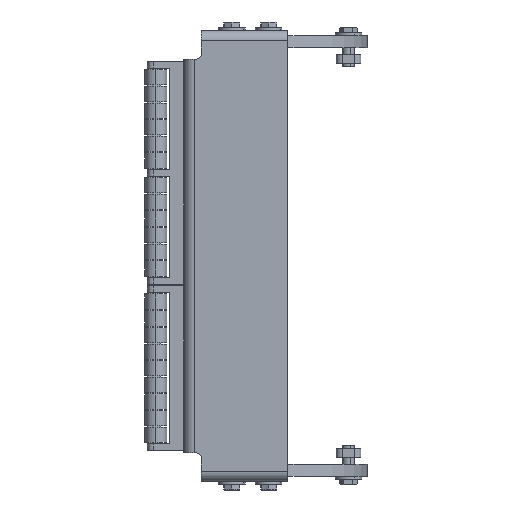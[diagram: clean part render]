
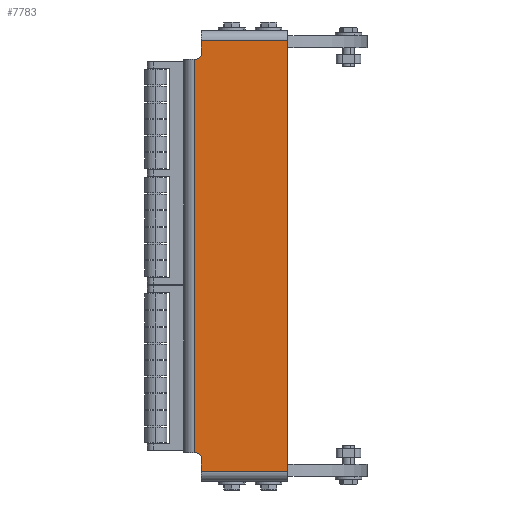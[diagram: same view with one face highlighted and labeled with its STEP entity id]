
A CAD part, left-side view. The second image highlights one B-rep face of the part: STEP entity #7783.
In plain terms, the highlighted planar face has unit normal (-1, 0, 0) as drawn and (1, 0, 0) by its records, which use the part's own axes.
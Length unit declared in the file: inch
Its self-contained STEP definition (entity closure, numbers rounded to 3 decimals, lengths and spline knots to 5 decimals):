
#6773=DIRECTION('',(0.,-1.,0.));
#6774=VECTOR('',#6773,1.75);
#6775=CARTESIAN_POINT('',(0.,0.8125,-4.375));
#6776=LINE('',#6775,#6774);
#6781=DIRECTION('',(0.,-1.,0.));
#6782=VECTOR('',#6781,0.023);
#6783=CARTESIAN_POINT('',(0.,0.9605,4.));
#6784=LINE('',#6783,#6782);
#6785=DIRECTION('',(0.,1.,0.));
#6786=VECTOR('',#6785,0.023);
#6787=CARTESIAN_POINT('',(0.,0.9375,-4.));
#6788=LINE('',#6787,#6786);
#6789=CARTESIAN_POINT('',(0.,0.9375,-4.125));
#6790=DIRECTION('',(-1.,0.,0.));
#6791=DIRECTION('',(0.,-1.,0.));
#6792=AXIS2_PLACEMENT_3D('',#6789,#6790,#6791);
#6794=DIRECTION('',(0.,0.,1.));
#6795=VECTOR('',#6794,0.25);
#6796=CARTESIAN_POINT('',(0.,0.8125,-4.375));
#6797=LINE('',#6796,#6795);
#6798=DIRECTION('',(0.,0.,1.));
#6799=VECTOR('',#6798,0.25);
#6800=CARTESIAN_POINT('',(0.,0.8125,4.125));
#6801=LINE('',#6800,#6799);
#6802=CARTESIAN_POINT('',(0.,0.9375,4.125));
#6803=DIRECTION('',(-1.,0.,0.));
#6804=DIRECTION('',(0.,0.,-1.));
#6805=AXIS2_PLACEMENT_3D('',#6802,#6803,#6804);
#6983=DIRECTION('',(0.,1.,0.));
#6984=VECTOR('',#6983,1.75);
#6985=CARTESIAN_POINT('',(0.,-0.9375,4.375));
#6986=LINE('',#6985,#6984);
#7005=DIRECTION('',(0.,0.,1.));
#7006=VECTOR('',#7005,8.75);
#7007=CARTESIAN_POINT('',(0.,-0.9375,-4.375));
#7008=LINE('',#7007,#7006);
#7347=DIRECTION('',(0.,0.,-1.));
#7348=VECTOR('',#7347,8.);
#7349=CARTESIAN_POINT('',(0.,0.9605,4.));
#7350=LINE('',#7349,#7348);
#7541=CARTESIAN_POINT('',(0.,0.9605,4.));
#7542=VERTEX_POINT('',#7541);
#7553=CARTESIAN_POINT('',(0.,0.8125,4.375));
#7555=VERTEX_POINT('',#7553);
#7561=CARTESIAN_POINT('',(0.,-0.9375,4.375));
#7562=VERTEX_POINT('',#7561);
#7577=CARTESIAN_POINT('',(0.,0.9375,-4.));
#7578=CARTESIAN_POINT('',(0.,0.9605,-4.));
#7579=VERTEX_POINT('',#7577);
#7580=VERTEX_POINT('',#7578);
#7581=CARTESIAN_POINT('',(0.,0.9375,4.));
#7582=CARTESIAN_POINT('',(0.,0.8125,4.125));
#7583=VERTEX_POINT('',#7581);
#7584=VERTEX_POINT('',#7582);
#7601=CARTESIAN_POINT('',(0.,0.8125,-4.375));
#7602=VERTEX_POINT('',#7601);
#7661=CARTESIAN_POINT('',(0.,-0.9375,-4.375));
#7662=VERTEX_POINT('',#7661);
#7697=CARTESIAN_POINT('',(0.,0.8125,-4.125));
#7698=VERTEX_POINT('',#7697);
#7757=CARTESIAN_POINT('',(0.,0.,0.));
#7758=DIRECTION('',(1.,0.,0.));
#7759=DIRECTION('',(0.,0.,-1.));
#7760=AXIS2_PLACEMENT_3D('',#7757,#7758,#7759);
#7761=PLANE('',#7760);
#7763=ORIENTED_EDGE('',*,*,#7762,.F.);
#7765=ORIENTED_EDGE('',*,*,#7764,.T.);
#7767=ORIENTED_EDGE('',*,*,#7766,.F.);
#7769=ORIENTED_EDGE('',*,*,#7768,.F.);
#7771=ORIENTED_EDGE('',*,*,#7770,.F.);
#7772=ORIENTED_EDGE('',*,*,#7746,.T.);
#7774=ORIENTED_EDGE('',*,*,#7773,.T.);
#7776=ORIENTED_EDGE('',*,*,#7775,.T.);
#7778=ORIENTED_EDGE('',*,*,#7777,.F.);
#7780=ORIENTED_EDGE('',*,*,#7779,.F.);
#7781=EDGE_LOOP('',(#7763,#7765,#7767,#7769,#7771,#7772,#7774,#7776,#7778,
#7780));
#7782=FACE_OUTER_BOUND('',#7781,.F.);
#6793=CIRCLE('',#6792,0.125);
#6806=CIRCLE('',#6805,0.125);
#7746=EDGE_CURVE('',#7602,#7662,#6776,.T.);
#7762=EDGE_CURVE('',#7542,#7583,#6784,.T.);
#7764=EDGE_CURVE('',#7542,#7580,#7350,.T.);
#7766=EDGE_CURVE('',#7579,#7580,#6788,.T.);
#7768=EDGE_CURVE('',#7698,#7579,#6793,.T.);
#7770=EDGE_CURVE('',#7602,#7698,#6797,.T.);
#7773=EDGE_CURVE('',#7662,#7562,#7008,.T.);
#7775=EDGE_CURVE('',#7562,#7555,#6986,.T.);
#7777=EDGE_CURVE('',#7584,#7555,#6801,.T.);
#7779=EDGE_CURVE('',#7583,#7584,#6806,.T.);
#7783=ADVANCED_FACE('',(#7782),#7761,.T.);
